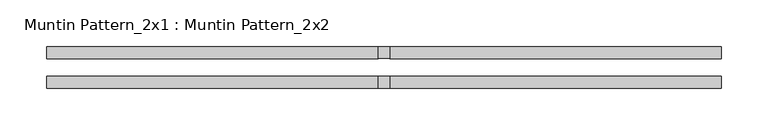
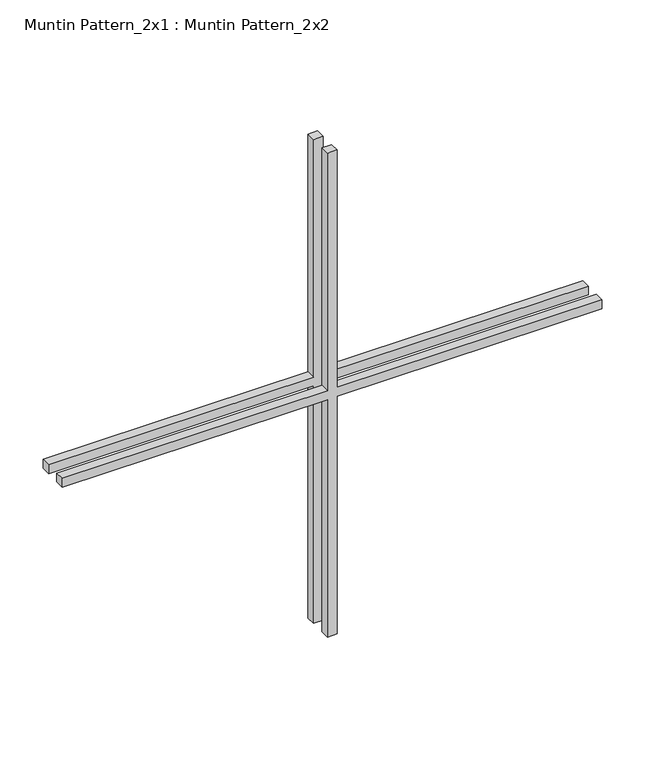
"""IFC4 building model written with IfcOpenShell, lengths in millimetres: proxy geometry, Muntin Pattern_2x1 : Muntin Pattern_2x2."""

from ifc_helpers import new_model, si_unit, frame, origin, place, context, project, spatial, polyline, outline, extrude, source, transform, mapped, element, save


def muntin_pattern_2x1_muntin_pattern_2x2_5a77f14e(model_context):
    return source(origin(), model_context, "Body", "SweptSolid", [
        extrude(outline(polyline([(349.25, -6.35), (349.25, -361.95), (336.55, -361.95), (336.55, -6.35), (0.0, -6.35), (0.0, 6.35), (336.55, 6.35), (336.55, 361.95), (349.25, 361.95), (349.25, 6.35), (685.8, 6.35), (685.8, -6.35), (349.25, -6.35)])), frame((0.0, 9.525, 0.0), z_axis=(0.0, 1.0, 0.0), x_axis=(0.0, 0.0, 1.0)), (0.0, 0.0, 1.0), 12.7),
        extrude(outline(polyline([(349.25, -6.35), (349.25, -361.95), (336.55, -361.95), (336.55, -6.35), (0.0, -6.35), (0.0, 6.35), (336.55, 6.35), (336.55, 361.95), (349.25, 361.95), (349.25, 6.35), (685.8, 6.35), (685.8, -6.35), (349.25, -6.35)])), frame((0.0, -22.225, 0.0), z_axis=(0.0, 1.0, 0.0), x_axis=(0.0, 0.0, 1.0)), (0.0, 0.0, 1.0), 12.7),
    ])


if __name__ == "__main__":
    model = new_model("IFC4")
    model_context = context("Model", 3, world=origin())
    ifc_project = project(units=[si_unit("LENGTHUNIT", "METRE", prefix="MILLI")], contexts=[model_context])
    site = spatial("IfcSite", under=ifc_project)
    building = spatial("IfcBuilding", under=site)
    placement = place(None, origin())
    muntin_pattern_2x1_muntin_pattern_2x2_shape = muntin_pattern_2x1_muntin_pattern_2x2_5a77f14e(model_context)
    element("IfcBuildingElementProxy", 1, Name="Muntin Pattern_2x1 : Muntin Pattern_2x2", ObjectType="Muntin Pattern_2x1 : Muntin Pattern_2x2", at=placement, inside=building, context=model_context, shape_type="MappedRepresentation", body=[
        mapped(muntin_pattern_2x1_muntin_pattern_2x2_shape, transform((0.0, 0.0, 0.0), x_axis=(1.0, 0.0, 0.0), y_axis=(0.0, 1.0, 0.0), z_axis=(0.0, 0.0, 1.0))),
    ])
    save(model, "model.ifc")
